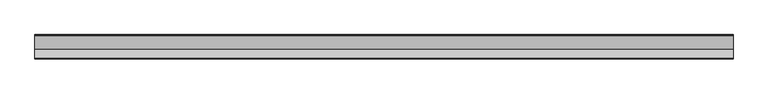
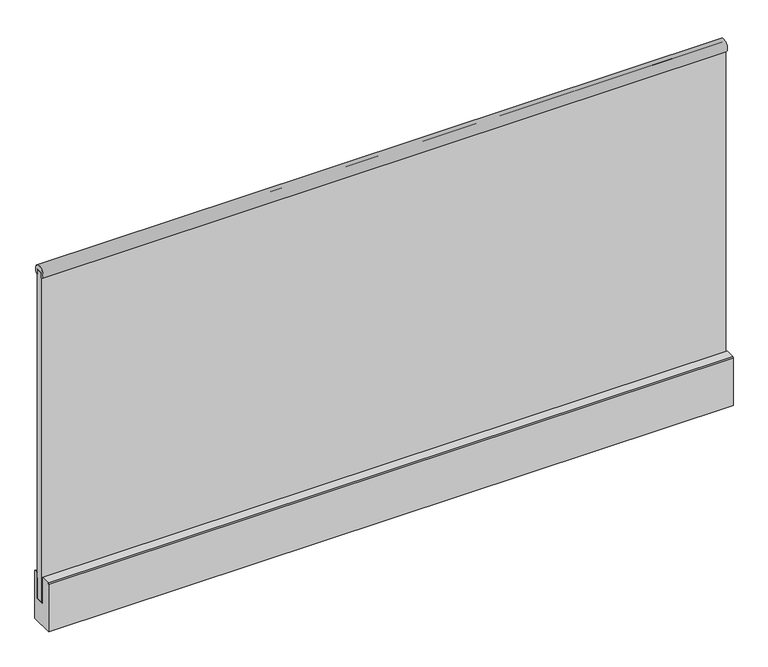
"""IFC4 building model written with IfcOpenShell, lengths in millimetres: railing geometry, Glass Railing (10+10) - Faraone - Ninfa 186 - Fascia mounted - Elipse Handrail 42.4."""

from ifc_helpers import new_model, si_unit, point, frame, frame_2d, origin, place, context, project, spatial, polyline, circle_curve, trimmed, segment, composite_curve, outline, extrude, source, transform, mapped, element, save


def railing_73ee000f(model_context):
    return source(origin(), model_context, "Body", "SweptSolid", [
        extrude(outline(composite_curve([segment(trimmed(circle_curve(frame_2d((-1682.3368887, 1085.2808397)), 21.2), [point((-1697.0491388, 1070.0168397))], [point((-1667.6246385, 1070.0168397))], False, "CARTESIAN"), True, "CONTINUOUS"), segment(polyline([(-1667.6246385, 1070.0168397), (-1670.4466487, 1070.0168397), (-1670.4466487, 1086.1344777)]), True, "CONTINUOUS"), segment(trimmed(circle_curve(frame_2d((-1673.8321709, 1086.1344777)), 3.3855223), [point((-1670.4466487, 1086.1344777))], [point((-1673.8321709, 1089.52))], True, "CARTESIAN"), True, "CONTINUOUS"), segment(polyline([(-1673.8321709, 1089.52), (-1690.8536825, 1089.52)]), True, "CONTINUOUS"), segment(trimmed(circle_curve(frame_2d((-1690.8536825, 1086.1465538)), 3.3734462), [point((-1690.8536825, 1089.52))], [point((-1694.2271287, 1086.1465538))], True, "CARTESIAN"), True, "CONTINUOUS"), segment(polyline([(-1694.2271287, 1086.1465538), (-1694.2271287, 1070.0168397), (-1697.0491388, 1070.0168397)]), True, "CONTINUOUS")], self_intersect=False)), frame((4362.6376845, 0.0, 0.0), z_axis=(1.0, 0.0, 0.0), x_axis=(0.0, 1.0, 0.0)), (0.0, 0.0, 1.0), 2320.0),
        extrude(outline(polyline([(-1671.5568887, -92.36), (-1693.0568887, -92.36), (-1693.0568887, 1087.54), (-1682.8068887, 1087.54), (-1682.8068887, -91.56), (-1681.8068887, -91.56), (-1681.8068887, 1087.54), (-1671.5568887, 1087.54), (-1671.5568887, -92.36)])), frame((4362.6376845, 0.0, 0.0), z_axis=(1.0, 0.0, 0.0), x_axis=(0.0, 1.0, 0.0)), (0.0, 0.0, 1.0), 2320.0),
        extrude(outline(composite_curve([segment(trimmed(circle_curve(frame_2d((-1659.6843191, -3.1212327)), 3.1206002), [point((-1659.6843191, -0.0006325))], [point((-1656.5637189, -3.1212327))], False, "CARTESIAN"), True, "CONTINUOUS"), segment(polyline([(-1656.5637189, -3.1212327), (-1656.5637189, -173.21), (-1736.9072523, -173.21), (-1736.9072523, -3.0621312)]), True, "CONTINUOUS"), segment(trimmed(circle_curve(frame_2d((-1733.8457536, -3.0621312)), 3.0614987), [point((-1736.9072523, -3.0621312))], [point((-1733.8457536, -0.0006325))], False, "CARTESIAN"), True, "CONTINUOUS"), segment(polyline([(-1733.8457536, -0.0006325), (-1701.3650177, -0.0006325), (-1701.3650177, -95.3393625), (-1669.5887596, -95.3393625), (-1669.5887596, -0.0006325), (-1659.6843191, -0.0006325)]), True, "CONTINUOUS")], self_intersect=False)), frame((4362.6376845, 0.0, 0.0), z_axis=(1.0, 0.0, 0.0), x_axis=(0.0, 1.0, 0.0)), (0.0, 0.0, 1.0), 2320.0),
        extrude(outline(polyline([(-1669.5849739, -95.34), (-1693.0688034, -95.34), (-1693.0688034, -92.3609041), (-1671.5589219, -92.3609041), (-1671.5589219, -20.1108016), (-1669.5849739, -20.1108016), (-1669.5849739, -95.34)])), frame((4362.6376845, 0.0, 0.0), z_axis=(1.0, 0.0, 0.0), x_axis=(0.0, 1.0, 0.0)), (0.0, 0.0, 1.0), 2320.0),
    ])


if __name__ == "__main__":
    model = new_model("IFC4")
    model_context = context("Model", 3, world=origin())
    ifc_project = project(units=[si_unit("LENGTHUNIT", "METRE", prefix="MILLI")], contexts=[model_context])
    site = spatial("IfcSite", under=ifc_project)
    building = spatial("IfcBuilding", under=site)
    placement = place(None, origin())
    railing_shape = railing_73ee000f(model_context)
    element("IfcRailing", 1, ObjectType="Glass Railing (10+10) - Faraone - Ninfa 186 - Fascia mounted - Elipse Handrail 42.4", at=placement, inside=building, context=model_context, shape_type="MappedRepresentation", body=[
        mapped(railing_shape, transform((0.0, 0.0, 0.0), x_axis=(1.0, 0.0, 0.0), y_axis=(0.0, 1.0, 0.0), z_axis=(0.0, 0.0, 1.0))),
    ])
    save(model, "model.ifc")
